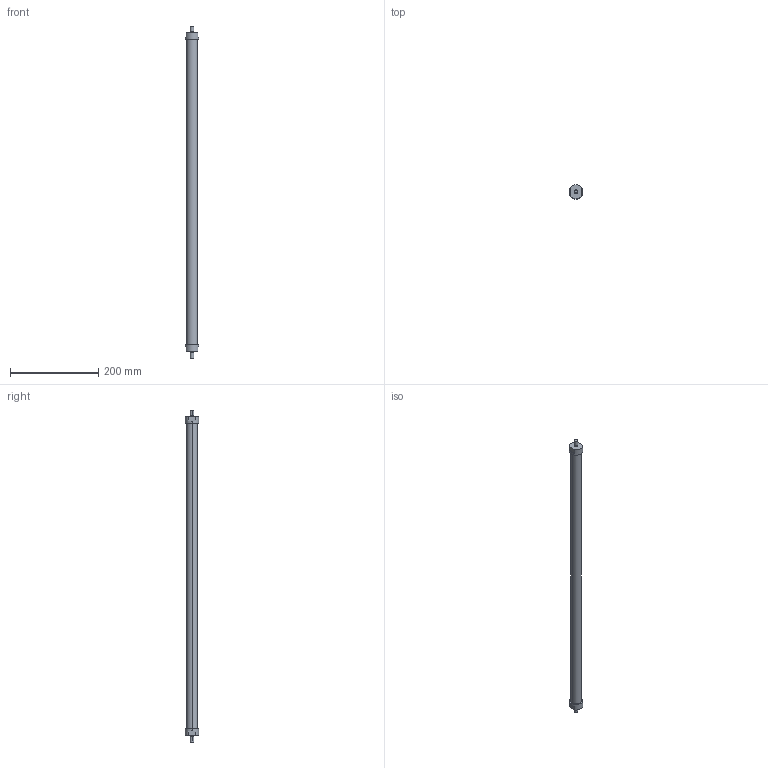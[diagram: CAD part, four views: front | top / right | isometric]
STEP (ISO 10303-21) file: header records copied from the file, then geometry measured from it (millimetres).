
FILE_DESCRIPTION(('STEP AP214'),'1');
FILE_NAME('ETT-R050N734.stp','2015-02-02T15:48:18',(' '),(' '),'Spatial InterOp 3D',' ',' ');
FILE_SCHEMA(('automotive_design'));
Length unit declared in the file: metre
Products named in the file (3): 1; 2; 3
Bounding box: 31 x 31 x 754 mm (x, y, z)
Volume: 363672.5 mm3; surface area: 60734 mm2
Topology: 1 solids, 7 shells, 30 faces, 81 edges, 63 vertices
Faces by surface type: plane 16, cylinder 14
Entity records: 1295 total; most frequent: DIRECTION 194, CARTESIAN_POINT 177, ORIENTED_EDGE 138, EDGE_CURVE 81, AXIS2_PLACEMENT_3D 80, VERTEX_POINT 63, CIRCLE 47, EDGE_LOOP 36
